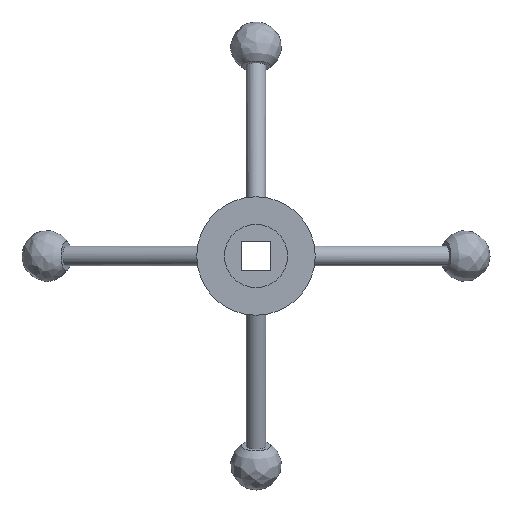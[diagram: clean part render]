
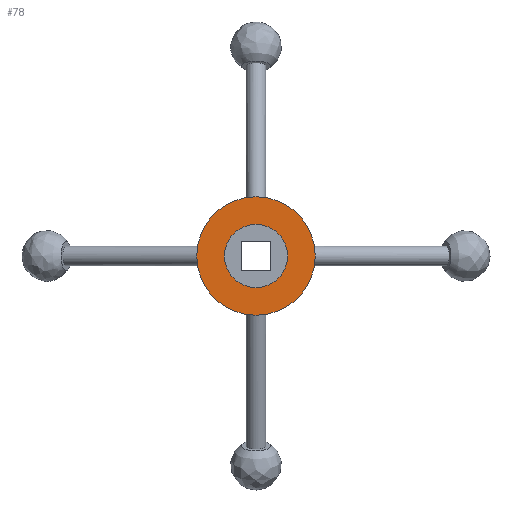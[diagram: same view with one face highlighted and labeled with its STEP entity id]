
A CAD part, front view. The second image highlights one B-rep face of the part: STEP entity #78.
In plain terms, the highlighted planar face has unit normal (0, -1, 0).
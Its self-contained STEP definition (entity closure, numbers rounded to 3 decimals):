
#78 = ADVANCED_FACE( '', ( #107, #108 ), #109, .F. );
#107 = FACE_BOUND( '', #173, .T. );
#108 = FACE_OUTER_BOUND( '', #174, .T. );
#109 = PLANE( '', #175 );
#173 = EDGE_LOOP( '', ( #384 ) );
#174 = EDGE_LOOP( '', ( #385 ) );
#175 = AXIS2_PLACEMENT_3D( '', #386, #387, #388 );
#384 = ORIENTED_EDGE( '', *, *, #489, .F. );
#385 = ORIENTED_EDGE( '', *, *, #490, .T. );
#386 = CARTESIAN_POINT( '', ( 30., 11., 0. ) );
#387 = DIRECTION( '', ( 0., 1., 0. ) );
#388 = DIRECTION( '', ( 0., 0., 1. ) );
#489 = EDGE_CURVE( '', #529, #529, #530, .T. );
#490 = EDGE_CURVE( '', #531, #531, #532, .T. );
#529 = VERTEX_POINT( '', #660 );
#530 = CIRCLE( '', #661, 16. );
#531 = VERTEX_POINT( '', #662 );
#532 = CIRCLE( '', #663, 30. );
#660 = CARTESIAN_POINT( '', ( 0., 11., -16. ) );
#661 = AXIS2_PLACEMENT_3D( '', #933, #934, #935 );
#662 = CARTESIAN_POINT( '', ( 0., 11., -30. ) );
#663 = AXIS2_PLACEMENT_3D( '', #936, #937, #938 );
#933 = CARTESIAN_POINT( '', ( 0., 11., 0. ) );
#934 = DIRECTION( '', ( 0., -1., 0. ) );
#935 = DIRECTION( '', ( 0., 0., -1. ) );
#936 = CARTESIAN_POINT( '', ( 0., 11., 0. ) );
#937 = DIRECTION( '', ( 0., -1., 0. ) );
#938 = DIRECTION( '', ( 0., 0., -1. ) );
